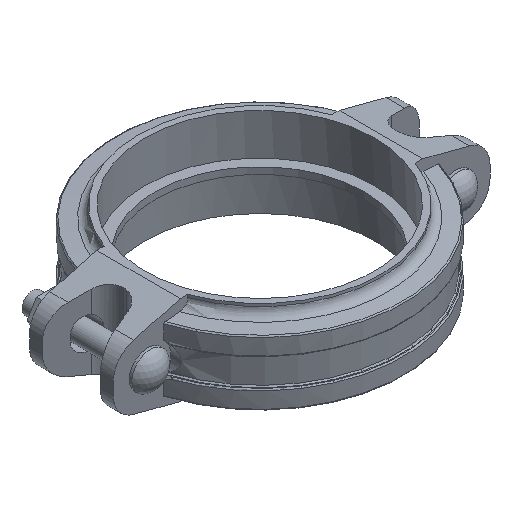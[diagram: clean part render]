
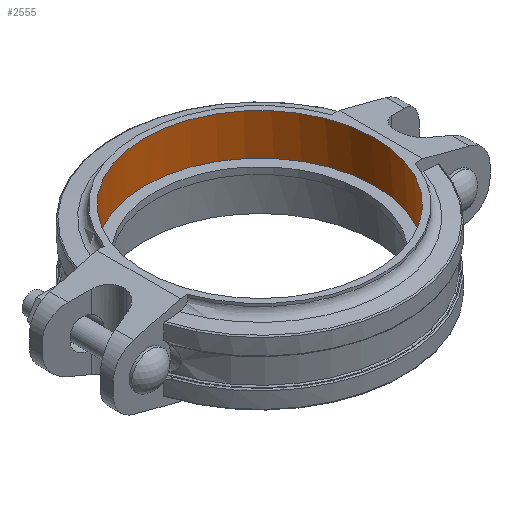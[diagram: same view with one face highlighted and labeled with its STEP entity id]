
A CAD part, isometric view. The second image highlights one B-rep face of the part: STEP entity #2555.
In plain terms, the highlighted cylindrical face has radius 69.85 mm (diameter 139.7 mm), a full revolution.
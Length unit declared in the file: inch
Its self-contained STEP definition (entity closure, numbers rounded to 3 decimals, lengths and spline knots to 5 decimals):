
#240=FACE_OUTER_BOUND('',#371,.T.);
#371=EDGE_LOOP('',(#1618,#1619,#1620,#1621,#1622,#1623));
#510=LINE('',#3705,#689);
#689=VECTOR('',#2992,2.75);
#871=CIRCLE('',#2708,2.75);
#872=CIRCLE('',#2709,2.75);
#873=CIRCLE('',#2711,2.75);
#874=CIRCLE('',#2712,2.75);
#973=VERTEX_POINT('',#3699);
#974=VERTEX_POINT('',#3700);
#975=VERTEX_POINT('',#3704);
#976=VERTEX_POINT('',#3706);
#1232=EDGE_CURVE('',#973,#974,#871,.T.);
#1233=EDGE_CURVE('',#974,#973,#872,.T.);
#1234=EDGE_CURVE('',#974,#975,#510,.T.);
#1235=EDGE_CURVE('',#976,#975,#873,.T.);
#1236=EDGE_CURVE('',#975,#976,#874,.T.);
#1618=ORIENTED_EDGE('',*,*,#1232,.T.);
#1619=ORIENTED_EDGE('',*,*,#1234,.T.);
#1620=ORIENTED_EDGE('',*,*,#1235,.F.);
#1621=ORIENTED_EDGE('',*,*,#1236,.F.);
#1622=ORIENTED_EDGE('',*,*,#1234,.F.);
#1623=ORIENTED_EDGE('',*,*,#1233,.T.);
#2371=CYLINDRICAL_SURFACE('',#2710,2.75);
#2555=ADVANCED_FACE('',(#240),#2371,.F.);
#2708=AXIS2_PLACEMENT_3D('',#3701,#2986,#2987);
#2709=AXIS2_PLACEMENT_3D('',#3702,#2988,#2989);
#2710=AXIS2_PLACEMENT_3D('',#3703,#2990,#2991);
#2711=AXIS2_PLACEMENT_3D('',#3707,#2993,#2994);
#2712=AXIS2_PLACEMENT_3D('',#3708,#2995,#2996);
#2986=DIRECTION('center_axis',(0.,0.,-1.));
#2987=DIRECTION('ref_axis',(0.,-1.,0.));
#2988=DIRECTION('center_axis',(0.,0.,-1.));
#2989=DIRECTION('ref_axis',(0.,-1.,0.));
#2990=DIRECTION('center_axis',(0.,0.,-1.));
#2991=DIRECTION('ref_axis',(0.,-1.,0.));
#2992=DIRECTION('',(0.,0.,1.));
#2993=DIRECTION('center_axis',(0.,0.,-1.));
#2994=DIRECTION('ref_axis',(-1.,0.,0.));
#2995=DIRECTION('center_axis',(0.,0.,-1.));
#2996=DIRECTION('ref_axis',(-1.,0.,0.));
#3699=CARTESIAN_POINT('',(-2.75,0.,0.08));
#3700=CARTESIAN_POINT('',(0.,2.75,0.08));
#3701=CARTESIAN_POINT('Origin',(0.,0.,0.08));
#3702=CARTESIAN_POINT('Origin',(0.,0.,0.08));
#3703=CARTESIAN_POINT('Origin',(0.,0.,0.));
#3704=CARTESIAN_POINT('',(0.,2.75,1.065));
#3705=CARTESIAN_POINT('',(0.,2.75,0.));
#3706=CARTESIAN_POINT('',(2.56174,1.,1.065));
#3707=CARTESIAN_POINT('Origin',(0.,0.,1.065));
#3708=CARTESIAN_POINT('Origin',(0.,0.,1.065));
